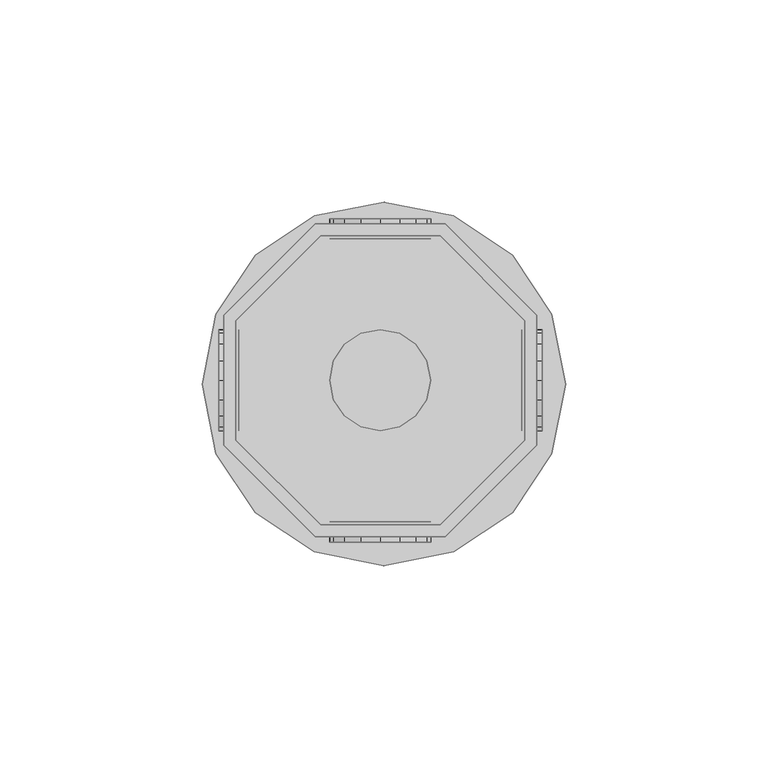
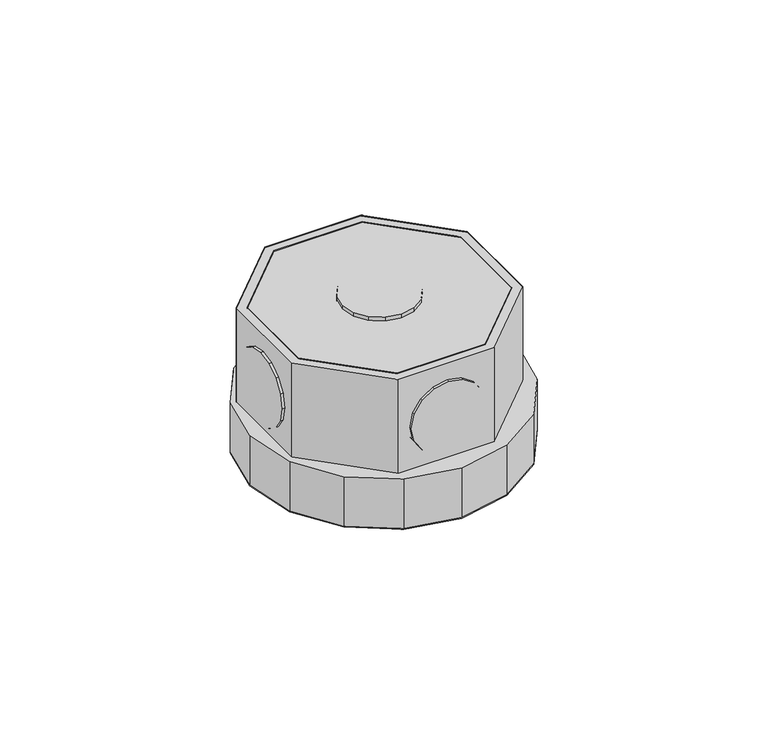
"""IFC4 building model written with IfcOpenShell, lengths in millimetres: light fixture geometry,  213876 :  213876."""

from ifc_helpers import new_model, si_unit, origin, place, context, project, spatial, triangles, source, transform, mapped, element, save


def light_fixture_0e81aafb(model_context):
    return source(origin(), model_context, "Body", "Tessellation", [
        triangles([(11365.0004791, 23945.4988586, 2924.5999741), (11335.3999603, 23945.4988586, 2975.400071), (11335.3999603, 23945.4988586, 2924.5999741), (11365.0004791, 23945.4988586, 2975.400071), (11366.2004059, 23871.0010803, 2924.5999741), (11334.1000397, 23871.0010803, 2975.400071), (11334.1000397, 23871.0010803, 2924.5999741), (11366.2004059, 23871.0010803, 2975.400071), (11314.4000793, 23924.5001404, 2975.400071), (11314.4000793, 23924.5001404, 2924.5999741), (11388.9001831, 23893.6996948, 2924.5999741), (11388.9001831, 23893.6996948, 2975.400071), (11314.4000793, 23894.8996216, 2975.400071), (11314.4000793, 23894.8996216, 2924.5999741), (11388.9001831, 23925.800061, 2924.5999741), (11388.9001831, 23925.800061, 2975.400071), (11335.3999603, 23874.0008972, 2975.400071), (11335.3999603, 23874.0008972, 2924.5999741), (11366.2004059, 23948.501001, 2924.5999741), (11366.2004059, 23948.501001, 2975.400071), (11365.0004791, 23874.0008972, 2924.5999741), (11365.0004791, 23874.0008972, 2975.400071), (11334.1000397, 23948.501001, 2975.400071), (11334.1000397, 23948.501001, 2924.5999741), (11385.9003662, 23894.8996216, 2924.5999741), (11385.9003662, 23894.8996216, 2975.400071), (11311.4002625, 23925.800061, 2975.400071), (11311.4002625, 23925.800061, 2924.5999741), (11311.4002625, 23893.6996948, 2975.400071), (11385.9003662, 23924.5001404, 2975.400071), (11385.9003662, 23924.5001404, 2924.5999741), (11311.4002625, 23893.6996948, 2924.5999741), (11314.4000793, 23894.8996216, 2972.3999634), (11335.3999603, 23874.0008972, 2972.3999634), (11365.0004791, 23874.0008972, 2972.3999634), (11385.9003662, 23894.8996216, 2972.3999634), (11385.9003662, 23924.5001404, 2972.3999634), (11365.0004791, 23945.4988586, 2972.3999634), (11335.3999603, 23945.4988586, 2972.3999634), (11314.4000793, 23924.5001404, 2972.3999634), (11311.4002625, 23925.800061, 2942.4000504), (11334.1000397, 23948.501001, 2942.4000504), (11366.2004059, 23948.501001, 2942.4000504), (11388.9001831, 23925.800061, 2942.4000504), (11388.9001831, 23893.6996948, 2942.4000504), (11366.2004059, 23871.0010803, 2942.4000504), (11334.1000397, 23871.0010803, 2942.4000504), (11311.4002625, 23893.6996948, 2942.4000504), (11333.800058, 23867.2989807, 2942.4000504), (11309.5003784, 23891.599823, 2942.4000504), (11319.1997864, 23877.0007141, 2942.4000504), (11306.0994232, 23908.8010986, 2942.4000504), (11309.5003784, 23926.1000427, 2942.4000504), (11319.1997864, 23940.6991516, 2942.4000504), (11333.800058, 23950.400885, 2942.4000504), (11351.1001648, 23953.8006775, 2942.4000504), (11368.3002777, 23950.400885, 2942.4000504), (11392.5999573, 23926.1000427, 2942.4000504), (11382.9005493, 23940.6991516, 2942.4000504), (11351.1001648, 23863.7991943, 2942.4000504), (11368.3002777, 23867.2989807, 2942.4000504), (11382.9005493, 23877.0007141, 2942.4000504), (11392.5999573, 23891.599823, 2942.4000504), (11396.0997437, 23908.8010986, 2942.4000504), (11309.5003784, 23891.599823, 2924.5999741), (11333.800058, 23867.2989807, 2924.5999741), (11319.1997864, 23877.0007141, 2924.5999741), (11306.0994232, 23908.8010986, 2924.5999741), (11309.5003784, 23926.1000427, 2924.5999741), (11319.1997864, 23940.6991516, 2924.5999741), (11333.800058, 23950.400885, 2924.5999741), (11351.1001648, 23953.8006775, 2924.5999741), (11368.3002777, 23950.400885, 2924.5999741), (11392.5999573, 23926.1000427, 2924.5999741), (11382.9005493, 23940.6991516, 2924.5999741), (11351.1001648, 23863.7991943, 2924.5999741), (11368.3002777, 23867.2989807, 2924.5999741), (11382.9005493, 23877.0007141, 2924.5999741), (11392.5999573, 23891.599823, 2924.5999741), (11396.0997437, 23908.8010986, 2924.5999741), (11338.599765, 23949.7009277, 2952.6000092), (11345.4005127, 23949.7009277, 2945.9001274), (11341.2996002, 23949.7009277, 2948.5999626), (11337.6998199, 23949.7009277, 2957.4000069), (11350.2002197, 23949.7009277, 2944.8998978), (11338.599765, 23949.7009277, 2962.2000046), (11354.9999268, 23949.7009277, 2945.9001274), (11341.2996002, 23949.7009277, 2966.2000511), (11358.9996826, 23949.7009277, 2948.5999626), (11345.4005127, 23949.7009277, 2968.8998863), (11361.6995178, 23949.7009277, 2952.6000092), (11350.2002197, 23949.7009277, 2969.900116), (11362.6994568, 23949.7009277, 2957.4000069), (11354.9999268, 23949.7009277, 2968.8998863), (11361.6995178, 23949.7009277, 2962.2000046), (11358.9996826, 23949.7009277, 2966.2000511), (11345.4005127, 23944.6989075, 2945.9001274), (11338.599765, 23944.6989075, 2952.6000092), (11341.2996002, 23944.6989075, 2948.5999626), (11350.2002197, 23944.6989075, 2944.8998978), (11337.6998199, 23944.6989075, 2957.4000069), (11354.9999268, 23944.6989075, 2945.9001274), (11338.599765, 23944.6989075, 2962.2000046), (11358.9996826, 23944.6989075, 2948.5999626), (11341.2996002, 23944.6989075, 2966.2000511), (11345.4005127, 23944.6989075, 2968.8998863), (11361.6995178, 23944.6989075, 2952.6000092), (11350.2002197, 23944.6989075, 2969.900116), (11362.6994568, 23944.6989075, 2957.4000069), (11354.9999268, 23944.6989075, 2968.8998863), (11361.6995178, 23944.6989075, 2962.2000046), (11358.9996826, 23944.6989075, 2966.2000511), (11338.599765, 23874.7008545, 2952.6000092), (11345.4005127, 23874.7008545, 2945.9001274), (11341.2996002, 23874.7008545, 2948.5999626), (11337.6998199, 23874.7008545, 2957.4000069), (11350.2002197, 23874.7008545, 2944.8998978), (11338.599765, 23874.7008545, 2962.2000046), (11354.9999268, 23874.7008545, 2945.9001274), (11341.2996002, 23874.7008545, 2966.2000511), (11358.9996826, 23874.7008545, 2948.5999626), (11345.4005127, 23874.7008545, 2968.8998863), (11361.6995178, 23874.7008545, 2952.6000092), (11350.2002197, 23874.7008545, 2969.900116), (11362.6994568, 23874.7008545, 2957.4000069), (11354.9999268, 23874.7008545, 2968.8998863), (11361.6995178, 23874.7008545, 2962.2000046), (11358.9996826, 23874.7008545, 2966.2000511), (11345.4005127, 23869.7011597, 2945.9001274), (11338.599765, 23869.7011597, 2952.6000092), (11341.2996002, 23869.7011597, 2948.5999626), (11350.2002197, 23869.7011597, 2944.8998978), (11337.6998199, 23869.7011597, 2957.4000069), (11354.9999268, 23869.7011597, 2945.9001274), (11338.599765, 23869.7011597, 2962.2000046), (11358.9996826, 23869.7011597, 2948.5999626), (11341.2996002, 23869.7011597, 2966.2000511), (11345.4005127, 23869.7011597, 2968.8998863), (11361.6995178, 23869.7011597, 2952.6000092), (11350.2002197, 23869.7011597, 2969.900116), (11362.6994568, 23869.7011597, 2957.4000069), (11354.9999268, 23869.7011597, 2968.8998863), (11361.6995178, 23869.7011597, 2962.2000046), (11358.9996826, 23869.7011597, 2966.2000511), (11315.2000305, 23904.8990112, 2945.9001274), (11315.2000305, 23898.1994202, 2952.6000092), (11315.2000305, 23900.8992554, 2948.5999626), (11315.2000305, 23909.7010437, 2944.8998978), (11315.2000305, 23897.1994812, 2957.4000069), (11315.2000305, 23914.5007507, 2945.9001274), (11315.2000305, 23898.1994202, 2962.2000046), (11315.2000305, 23918.6005005, 2948.5999626), (11315.2000305, 23900.8992554, 2966.2000511), (11315.2000305, 23904.8990112, 2968.8998863), (11315.2000305, 23921.3003357, 2952.6000092), (11315.2000305, 23909.7010437, 2969.900116), (11315.2000305, 23922.2002808, 2957.4000069), (11315.2000305, 23914.5007507, 2968.8998863), (11315.2000305, 23921.3003357, 2962.2000046), (11315.2000305, 23918.6005005, 2966.2000511), (11310.2003357, 23898.1994202, 2952.6000092), (11310.2003357, 23904.8990112, 2945.9001274), (11310.2003357, 23900.8992554, 2948.5999626), (11310.2003357, 23897.1994812, 2957.4000069), (11310.2003357, 23909.7010437, 2944.8998978), (11310.2003357, 23898.1994202, 2962.2000046), (11310.2003357, 23914.5007507, 2945.9001274), (11310.2003357, 23900.8992554, 2966.2000511), (11310.2003357, 23918.6005005, 2948.5999626), (11310.2003357, 23904.8990112, 2968.8998863), (11310.2003357, 23921.3003357, 2952.6000092), (11310.2003357, 23909.7010437, 2969.900116), (11310.2003357, 23922.2002808, 2957.4000069), (11310.2003357, 23914.5007507, 2968.8998863), (11310.2003357, 23921.3003357, 2962.2000046), (11310.2003357, 23918.6005005, 2966.2000511), (11390.2001038, 23904.8990112, 2945.9001274), (11390.2001038, 23898.1994202, 2952.6000092), (11390.2001038, 23900.8992554, 2948.5999626), (11390.2001038, 23909.7010437, 2944.8998978), (11390.2001038, 23897.1994812, 2957.4000069), (11390.2001038, 23914.5007507, 2945.9001274), (11390.2001038, 23898.1994202, 2962.2000046), (11390.2001038, 23918.6005005, 2948.5999626), (11390.2001038, 23900.8992554, 2966.2000511), (11390.2001038, 23904.8990112, 2968.8998863), (11390.2001038, 23921.3003357, 2952.6000092), (11390.2001038, 23909.7010437, 2969.900116), (11390.2001038, 23922.2002808, 2957.4000069), (11390.2001038, 23914.5007507, 2968.8998863), (11390.2001038, 23921.3003357, 2962.2000046), (11390.2001038, 23918.6005005, 2966.2000511), (11385.2004089, 23898.1994202, 2952.6000092), (11385.2004089, 23904.8990112, 2945.9001274), (11385.2004089, 23900.8992554, 2948.5999626), (11385.2004089, 23897.1994812, 2957.4000069), (11385.2004089, 23909.7010437, 2944.8998978), (11385.2004089, 23898.1994202, 2962.2000046), (11385.2004089, 23914.5007507, 2945.9001274), (11385.2004089, 23900.8992554, 2966.2000511), (11385.2004089, 23918.6005005, 2948.5999626), (11385.2004089, 23904.8990112, 2968.8998863), (11385.2004089, 23921.3003357, 2952.6000092), (11385.2004089, 23909.7010437, 2969.900116), (11385.2004089, 23922.2002808, 2957.4000069), (11385.2004089, 23914.5007507, 2968.8998863), (11385.2004089, 23921.3003357, 2962.2000046), (11385.2004089, 23918.6005005, 2966.2000511), (11345.4005127, 23898.1994202, 2976.9999733), (11338.599765, 23904.8990112, 2976.9999733), (11341.2996002, 23900.8992554, 2976.9999733), (11337.6998199, 23909.7010437, 2976.9999733), (11350.2002197, 23897.1994812, 2976.9999733), (11338.599765, 23914.5007507, 2976.9999733), (11354.9999268, 23898.1994202, 2976.9999733), (11341.2996002, 23918.6005005, 2976.9999733), (11358.9996826, 23900.8992554, 2976.9999733), (11345.4005127, 23921.3003357, 2976.9999733), (11361.6995178, 23904.8990112, 2976.9999733), (11350.2002197, 23922.2002808, 2976.9999733), (11362.6994568, 23909.7010437, 2976.9999733), (11354.9999268, 23921.3003357, 2976.9999733), (11361.6995178, 23914.5007507, 2976.9999733), (11358.9996826, 23918.6005005, 2976.9999733), (11338.599765, 23904.8990112, 2971.9999878), (11345.4005127, 23898.1994202, 2971.9999878), (11341.2996002, 23900.8992554, 2971.9999878), (11337.6998199, 23909.7010437, 2971.9999878), (11350.2002197, 23897.1994812, 2971.9999878), (11338.599765, 23914.5007507, 2971.9999878), (11354.9999268, 23898.1994202, 2971.9999878), (11341.2996002, 23918.6005005, 2971.9999878), (11358.9996826, 23900.8992554, 2971.9999878), (11345.4005127, 23921.3003357, 2971.9999878), (11361.6995178, 23904.8990112, 2971.9999878), (11350.2002197, 23922.2002808, 2971.9999878), (11362.6994568, 23909.7010437, 2971.9999878), (11354.9999268, 23921.3003357, 2971.9999878), (11361.6995178, 23914.5007507, 2971.9999878), (11358.9996826, 23918.6005005, 2971.9999878)], [[1, 2, 3], [2, 1, 4], [5, 6, 7], [6, 5, 8], [3, 9, 10], [9, 3, 2], [11, 8, 5], [8, 11, 12], [10, 13, 14], [13, 10, 9], [15, 12, 11], [12, 15, 16], [14, 17, 18], [17, 14, 13], [19, 16, 15], [16, 19, 20], [17, 21, 18], [21, 17, 22], [23, 19, 24], [19, 23, 20], [22, 25, 21], [25, 22, 26], [27, 24, 28], [24, 27, 23], [6, 13, 29], [29, 13, 27], [27, 13, 9], [27, 9, 23], [23, 9, 2], [23, 2, 4], [23, 4, 20], [20, 4, 30], [8, 17, 6], [6, 17, 13], [17, 8, 22], [12, 22, 8], [22, 12, 26], [30, 26, 12], [16, 30, 12], [20, 30, 16], [30, 1, 31], [1, 30, 4], [6, 32, 7], [32, 6, 29], [32, 14, 7], [28, 14, 32], [14, 28, 10], [24, 10, 28], [10, 24, 3], [1, 3, 24], [19, 1, 24], [31, 1, 19], [7, 18, 5], [14, 18, 7], [5, 18, 21], [5, 21, 11], [11, 21, 25], [11, 25, 31], [11, 31, 15], [15, 31, 19], [26, 31, 25], [31, 26, 30], [29, 28, 32], [28, 29, 27], [17, 33, 34], [33, 17, 13], [35, 17, 34], [17, 35, 22], [36, 22, 35], [22, 36, 26], [37, 26, 36], [26, 37, 30], [38, 30, 37], [30, 38, 4], [2, 38, 39], [38, 2, 4], [17, 9, 13], [9, 17, 22], [9, 22, 2], [2, 22, 26], [2, 26, 4], [4, 26, 30], [13, 40, 33], [40, 13, 9], [40, 34, 33], [35, 34, 40], [35, 40, 39], [35, 39, 36], [36, 39, 38], [36, 38, 37], [9, 39, 40], [39, 9, 2], [24, 41, 28], [41, 24, 42], [19, 42, 24], [42, 19, 43], [44, 19, 15], [19, 44, 43], [45, 15, 11], [15, 45, 44], [46, 11, 5], [11, 46, 45], [47, 5, 7], [5, 47, 46], [32, 47, 7], [47, 32, 48], [28, 48, 32], [48, 28, 41], [49, 50, 51], [48, 50, 49], [50, 48, 52], [41, 52, 48], [52, 41, 53], [53, 41, 54], [42, 54, 41], [54, 42, 55], [55, 42, 43], [55, 43, 56], [56, 43, 57], [57, 43, 44], [57, 44, 58], [57, 58, 59], [47, 49, 60], [49, 47, 48], [47, 60, 46], [61, 46, 60], [46, 61, 62], [46, 62, 45], [45, 62, 63], [44, 45, 63], [44, 63, 64], [44, 64, 58], [65, 66, 67], [66, 65, 32], [68, 32, 65], [32, 68, 28], [28, 68, 69], [70, 28, 69], [28, 70, 24], [71, 24, 70], [19, 24, 71], [19, 71, 72], [73, 19, 72], [19, 73, 15], [74, 15, 73], [74, 73, 75], [76, 66, 7], [32, 7, 66], [5, 76, 7], [76, 5, 77], [77, 5, 78], [11, 78, 5], [78, 11, 79], [79, 11, 15], [79, 15, 80], [80, 15, 74], [57, 75, 73], [75, 57, 59], [56, 73, 72], [73, 56, 57], [55, 72, 71], [72, 55, 56], [54, 71, 70], [71, 54, 55], [53, 70, 69], [70, 53, 54], [52, 69, 68], [69, 52, 53], [50, 68, 65], [68, 50, 52], [51, 65, 67], [65, 51, 50], [66, 51, 67], [51, 66, 49], [76, 49, 66], [49, 76, 60], [77, 60, 76], [60, 77, 61], [78, 61, 77], [61, 78, 62], [79, 62, 78], [62, 79, 63], [80, 63, 79], [63, 80, 64], [75, 58, 74], [58, 75, 59], [74, 64, 80], [64, 74, 58], [81, 82, 83], [82, 81, 84], [85, 82, 84], [85, 84, 86], [87, 85, 86], [87, 86, 88], [87, 88, 89], [89, 88, 90], [89, 90, 91], [91, 90, 92], [91, 92, 93], [93, 92, 94], [93, 94, 95], [95, 94, 96], [97, 98, 99], [98, 97, 100], [101, 98, 100], [101, 100, 102], [103, 101, 102], [103, 102, 104], [103, 104, 105], [105, 104, 106], [106, 104, 107], [106, 107, 108], [108, 107, 109], [108, 109, 110], [110, 109, 111], [110, 111, 112], [87, 104, 102], [104, 87, 89], [85, 102, 100], [102, 85, 87], [82, 100, 97], [100, 82, 85], [83, 97, 99], [97, 83, 82], [98, 83, 99], [83, 98, 81], [101, 81, 98], [81, 101, 84], [103, 84, 101], [84, 103, 86], [105, 86, 103], [86, 105, 88], [106, 88, 105], [88, 106, 90], [108, 90, 106], [90, 108, 92], [110, 92, 108], [92, 110, 94], [112, 94, 110], [94, 112, 96], [95, 112, 111], [112, 95, 96], [93, 111, 109], [111, 93, 95], [89, 107, 104], [107, 89, 91], [91, 109, 107], [109, 91, 93], [113, 114, 115], [114, 113, 116], [117, 114, 116], [117, 116, 118], [119, 117, 118], [119, 118, 120], [119, 120, 121], [121, 120, 122], [121, 122, 123], [123, 122, 124], [123, 124, 125], [125, 124, 126], [125, 126, 127], [127, 126, 128], [129, 130, 131], [130, 129, 132], [133, 130, 132], [133, 132, 134], [135, 133, 134], [135, 134, 136], [135, 136, 137], [137, 136, 138], [138, 136, 139], [138, 139, 140], [140, 139, 141], [140, 141, 142], [142, 141, 143], [142, 143, 144], [119, 136, 134], [136, 119, 121], [117, 134, 132], [134, 117, 119], [114, 132, 129], [132, 114, 117], [115, 129, 131], [129, 115, 114], [130, 115, 131], [115, 130, 113], [133, 113, 130], [113, 133, 116], [135, 116, 133], [116, 135, 118], [137, 118, 135], [118, 137, 120], [138, 120, 137], [120, 138, 122], [140, 122, 138], [122, 140, 124], [142, 124, 140], [124, 142, 126], [144, 126, 142], [126, 144, 128], [127, 144, 143], [144, 127, 128], [125, 143, 141], [143, 125, 127], [121, 139, 136], [139, 121, 123], [123, 141, 139], [141, 123, 125], [145, 146, 147], [146, 145, 148], [149, 146, 148], [149, 148, 150], [151, 149, 150], [151, 150, 152], [151, 152, 153], [153, 152, 154], [154, 152, 155], [154, 155, 156], [156, 155, 157], [156, 157, 158], [158, 157, 159], [158, 159, 160], [161, 162, 163], [162, 161, 164], [165, 162, 164], [165, 164, 166], [167, 165, 166], [167, 166, 168], [169, 167, 168], [169, 168, 170], [169, 170, 171], [171, 170, 172], [171, 172, 173], [173, 172, 174], [173, 174, 175], [175, 174, 176], [158, 176, 174], [176, 158, 160], [156, 174, 172], [174, 156, 158], [154, 172, 170], [172, 154, 156], [153, 170, 168], [170, 153, 154], [151, 168, 166], [168, 151, 153], [149, 166, 164], [166, 149, 151], [146, 164, 161], [164, 146, 149], [147, 161, 163], [161, 147, 146], [162, 147, 163], [147, 162, 145], [165, 145, 162], [145, 165, 148], [167, 148, 165], [148, 167, 150], [169, 150, 167], [150, 169, 152], [171, 152, 169], [152, 171, 155], [173, 155, 171], [155, 173, 157], [176, 159, 175], [159, 176, 160], [175, 157, 173], [157, 175, 159], [177, 178, 179], [178, 177, 180], [181, 178, 180], [181, 180, 182], [183, 181, 182], [183, 182, 184], [183, 184, 185], [185, 184, 186], [186, 184, 187], [186, 187, 188], [188, 187, 189], [188, 189, 190], [190, 189, 191], [190, 191, 192], [193, 194, 195], [194, 193, 196], [197, 194, 196], [197, 196, 198], [199, 197, 198], [199, 198, 200], [201, 199, 200], [201, 200, 202], [201, 202, 203], [203, 202, 204], [203, 204, 205], [205, 204, 206], [205, 206, 207], [207, 206, 208], [190, 208, 206], [208, 190, 192], [188, 206, 204], [206, 188, 190], [186, 204, 202], [204, 186, 188], [185, 202, 200], [202, 185, 186], [183, 200, 198], [200, 183, 185], [181, 198, 196], [198, 181, 183], [178, 196, 193], [196, 178, 181], [179, 193, 195], [193, 179, 178], [194, 179, 195], [179, 194, 177], [197, 177, 194], [177, 197, 180], [199, 180, 197], [180, 199, 182], [201, 182, 199], [182, 201, 184], [203, 184, 201], [184, 203, 187], [205, 187, 203], [187, 205, 189], [208, 191, 207], [191, 208, 192], [207, 189, 205], [189, 207, 191], [209, 210, 211], [212, 210, 209], [212, 209, 213], [214, 212, 213], [214, 213, 215], [216, 214, 215], [216, 215, 217], [216, 217, 218], [218, 217, 219], [218, 219, 220], [220, 219, 221], [220, 221, 222], [222, 221, 223], [222, 223, 224], [225, 226, 227], [226, 225, 228], [229, 226, 228], [229, 228, 230], [231, 229, 230], [231, 230, 232], [231, 232, 233], [233, 232, 234], [233, 234, 235], [235, 234, 236], [235, 236, 237], [237, 236, 238], [237, 238, 239], [239, 238, 240], [222, 240, 238], [240, 222, 224], [220, 238, 236], [238, 220, 222], [218, 236, 234], [236, 218, 220], [216, 234, 232], [234, 216, 218], [214, 232, 230], [232, 214, 216], [212, 230, 228], [230, 212, 214], [210, 228, 225], [228, 210, 212], [211, 225, 227], [225, 211, 210], [226, 211, 227], [211, 226, 209], [229, 209, 226], [209, 229, 213], [231, 213, 229], [213, 231, 215], [233, 215, 231], [215, 233, 217], [235, 217, 233], [217, 235, 219], [237, 219, 235], [219, 237, 221], [240, 223, 239], [223, 240, 224], [239, 221, 237], [221, 239, 223]], closed=False),
    ])


if __name__ == "__main__":
    model = new_model("IFC4")
    model_context = context("Model", 3, world=origin())
    ifc_project = project(units=[si_unit("LENGTHUNIT", "METRE", prefix="MILLI")], contexts=[model_context])
    site = spatial("IfcSite", under=ifc_project)
    building = spatial("IfcBuilding", under=site)
    placement = place(None, origin())
    light_fixture_shape = light_fixture_0e81aafb(model_context)
    element("IfcLightFixture", 1, ObjectType=" 213876 :  213876", at=placement, inside=building, context=model_context, shape_type="MappedRepresentation", body=[
        mapped(light_fixture_shape, transform((0.0, 0.0, 0.0), x_axis=(1.0, 0.0, 0.0), y_axis=(0.0, 1.0, 0.0), z_axis=(0.0, 0.0, 1.0))),
    ])
    save(model, "model.ifc")
